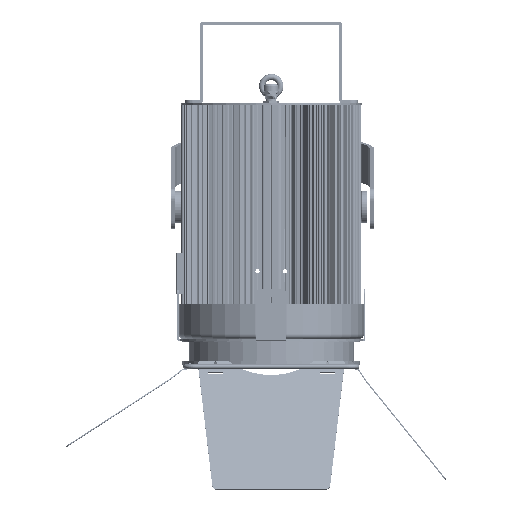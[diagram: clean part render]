
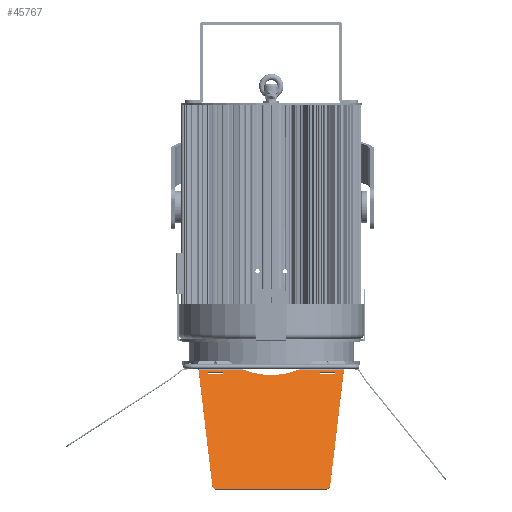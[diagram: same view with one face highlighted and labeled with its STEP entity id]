
A CAD part, top view. The second image highlights one B-rep face of the part: STEP entity #45767.
In plain terms, the highlighted planar face has unit normal (0, 0.515, 0.857) as drawn and (0, -1, 0) by its records, which use the part's own axes.
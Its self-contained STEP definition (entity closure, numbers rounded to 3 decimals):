
#33 = VERTEX_POINT ( 'NONE', #54854 ) ;
#303 = CARTESIAN_POINT ( 'NONE',  ( -52.981, -0.5, -74. ) ) ;
#1908 = AXIS2_PLACEMENT_3D ( 'NONE', #51754, #76099, #190012 ) ;
#2795 = DIRECTION ( 'NONE',  ( 0., 1., 0. ) ) ;
#16270 = CARTESIAN_POINT ( 'NONE',  ( 62.5, -0.5, 60.5 ) ) ;
#16301 = CARTESIAN_POINT ( 'NONE',  ( 62.5, -0.5, 60.5 ) ) ;
#19085 = VERTEX_POINT ( 'NONE', #16301 ) ;
#25766 = VERTEX_POINT ( 'NONE', #166596 ) ;
#28926 = CIRCLE ( 'NONE', #53250, 5. ) ;
#31161 = ORIENTED_EDGE ( 'NONE', *, *, #279138, .F. ) ;
#31207 = EDGE_CURVE ( 'NONE', #169072, #33, #73442, .T. ) ;
#32087 = CARTESIAN_POINT ( 'NONE',  ( 0., -0.5, 0. ) ) ;
#32564 = CARTESIAN_POINT ( 'NONE',  ( 47.5, -0.5, 60.5 ) ) ;
#33257 = ORIENTED_EDGE ( 'NONE', *, *, #210020, .T. ) ;
#35450 = CARTESIAN_POINT ( 'NONE',  ( 71.41, -0.5, 63.25 ) ) ;
#36353 = DIRECTION ( 'NONE',  ( 0.995, 0., -0.101 ) ) ;
#43621 = DIRECTION ( 'NONE',  ( -1., 0., 0. ) ) ;
#44674 = VERTEX_POINT ( 'NONE', #158492 ) ;
#45767 = ADVANCED_FACE ( 'NONE', ( #123309, #216007, #280009 ), #237376, .F. ) ;
#47404 = VECTOR ( 'NONE', #51983, 1000. ) ;
#48585 = VECTOR ( 'NONE', #266389, 1000. ) ;
#49306 = EDGE_CURVE ( 'NONE', #110558, #182606, #180787, .T. ) ;
#50694 = EDGE_CURVE ( 'NONE', #272325, #182606, #146826, .T. ) ;
#51754 = CARTESIAN_POINT ( 'NONE',  ( 0., -0.5, 120. ) ) ;
#51983 = DIRECTION ( 'NONE',  ( -1., 0., 0. ) ) ;
#53250 = AXIS2_PLACEMENT_3D ( 'NONE', #235322, #2795, #255144 ) ;
#54854 = CARTESIAN_POINT ( 'NONE',  ( 47.5, -0.5, 58.5 ) ) ;
#56396 = VERTEX_POINT ( 'NONE', #86873 ) ;
#62195 = DIRECTION ( 'NONE',  ( 0., 1., 0. ) ) ;
#63286 = ORIENTED_EDGE ( 'NONE', *, *, #277795, .T. ) ;
#65038 = CIRCLE ( 'NONE', #1908, 62.628 ) ;
#65907 = EDGE_CURVE ( 'NONE', #272325, #44674, #65038, .T. ) ;
#68885 = EDGE_CURVE ( 'NONE', #300080, #84984, #283008, .T. ) ;
#71047 = ORIENTED_EDGE ( 'NONE', *, *, #187424, .T. ) ;
#71147 = EDGE_CURVE ( 'NONE', #82294, #173832, #107222, .T. ) ;
#71237 = VECTOR ( 'NONE', #237846, 1000. ) ;
#71693 = DIRECTION ( 'NONE',  ( 1., 0., 0. ) ) ;
#73442 = LINE ( 'NONE', #237173, #187163 ) ;
#73680 = CARTESIAN_POINT ( 'NONE',  ( -62.5, -0.5, 60.5 ) ) ;
#73939 = ORIENTED_EDGE ( 'NONE', *, *, #49306, .F. ) ;
#75431 = DIRECTION ( 'NONE',  ( -1., 0., 0. ) ) ;
#75899 = AXIS2_PLACEMENT_3D ( 'NONE', #32087, #217512, #219046 ) ;
#76099 = DIRECTION ( 'NONE',  ( 0., -1., 0. ) ) ;
#77295 = ORIENTED_EDGE ( 'NONE', *, *, #50694, .T. ) ;
#79654 = DIRECTION ( 'NONE',  ( 1., 0., 0. ) ) ;
#82294 = VERTEX_POINT ( 'NONE', #246342 ) ;
#84984 = VERTEX_POINT ( 'NONE', #261412 ) ;
#86873 = CARTESIAN_POINT ( 'NONE',  ( -47.5, -0.5, 60.5 ) ) ;
#88506 = LINE ( 'NONE', #269522, #148407 ) ;
#88748 = ORIENTED_EDGE ( 'NONE', *, *, #31207, .T. ) ;
#91438 = LINE ( 'NONE', #303, #289699 ) ;
#93668 = CARTESIAN_POINT ( 'NONE',  ( 71.41, -0.5, 63.25 ) ) ;
#96358 = LINE ( 'NONE', #73680, #260597 ) ;
#97624 = ORIENTED_EDGE ( 'NONE', *, *, #195830, .F. ) ;
#106491 = LINE ( 'NONE', #249420, #244449 ) ;
#107222 = CIRCLE ( 'NONE', #204229, 5. ) ;
#110558 = VERTEX_POINT ( 'NONE', #204843 ) ;
#114219 = VERTEX_POINT ( 'NONE', #35450 ) ;
#115295 = CARTESIAN_POINT ( 'NONE',  ( -57.956, -0.5, -69.504 ) ) ;
#115308 = EDGE_CURVE ( 'NONE', #25766, #56396, #96358, .T. ) ;
#120579 = EDGE_LOOP ( 'NONE', ( #133970, #33257, #280755, #88748 ) ) ;
#122196 = VECTOR ( 'NONE', #75431, 1000. ) ;
#123309 = FACE_BOUND ( 'NONE', #120579, .T. ) ;
#126497 = LINE ( 'NONE', #194911, #48585 ) ;
#131139 = VECTOR ( 'NONE', #156206, 1000. ) ;
#132327 = CARTESIAN_POINT ( 'NONE',  ( -26.489, -0.5, 63.25 ) ) ;
#132442 = VECTOR ( 'NONE', #43621, 1000. ) ;
#133970 = ORIENTED_EDGE ( 'NONE', *, *, #143655, .T. ) ;
#143655 = EDGE_CURVE ( 'NONE', #33, #149012, #88506, .T. ) ;
#146826 = LINE ( 'NONE', #187880, #122196 ) ;
#148407 = VECTOR ( 'NONE', #293728, 1000. ) ;
#149012 = VERTEX_POINT ( 'NONE', #261792 ) ;
#149568 = EDGE_LOOP ( 'NONE', ( #244227, #71047, #181417, #63286 ) ) ;
#156206 = DIRECTION ( 'NONE',  ( 0., 0., -1. ) ) ;
#158492 = CARTESIAN_POINT ( 'NONE',  ( 26.489, -0.5, 63.25 ) ) ;
#159219 = LINE ( 'NONE', #16270, #131139 ) ;
#164653 = DIRECTION ( 'NONE',  ( 0., 0., -1. ) ) ;
#165831 = DIRECTION ( 'NONE',  ( -1., 0., 0. ) ) ;
#166596 = CARTESIAN_POINT ( 'NONE',  ( -62.5, -0.5, 60.5 ) ) ;
#169072 = VERTEX_POINT ( 'NONE', #282695 ) ;
#173832 = VERTEX_POINT ( 'NONE', #249217 ) ;
#177732 = CARTESIAN_POINT ( 'NONE',  ( 52.981, -0.5, -69. ) ) ;
#180787 = LINE ( 'NONE', #115295, #253119 ) ;
#180832 = ORIENTED_EDGE ( 'NONE', *, *, #71147, .F. ) ;
#180959 = DIRECTION ( 'NONE',  ( 0., 0., 1. ) ) ;
#181417 = ORIENTED_EDGE ( 'NONE', *, *, #115308, .T. ) ;
#182606 = VERTEX_POINT ( 'NONE', #204404 ) ;
#187163 = VECTOR ( 'NONE', #165831, 1000. ) ;
#187424 = EDGE_CURVE ( 'NONE', #84984, #25766, #106491, .T. ) ;
#187880 = CARTESIAN_POINT ( 'NONE',  ( -26.489, -0.5, 63.25 ) ) ;
#190012 = DIRECTION ( 'NONE',  ( -0.423, 0., -0.906 ) ) ;
#193877 = CARTESIAN_POINT ( 'NONE',  ( -47.5, -0.5, 58.5 ) ) ;
#194911 = CARTESIAN_POINT ( 'NONE',  ( 71.41, -0.5, 63.25 ) ) ;
#195615 = CARTESIAN_POINT ( 'NONE',  ( -52.981, -0.5, -74. ) ) ;
#195830 = EDGE_CURVE ( 'NONE', #114219, #82294, #126497, .T. ) ;
#204229 = AXIS2_PLACEMENT_3D ( 'NONE', #177732, #62195, #36353 ) ;
#204404 = CARTESIAN_POINT ( 'NONE',  ( -71.41, -0.5, 63.25 ) ) ;
#204843 = CARTESIAN_POINT ( 'NONE',  ( -57.956, -0.5, -69.504 ) ) ;
#206058 = LINE ( 'NONE', #32564, #71237 ) ;
#210020 = EDGE_CURVE ( 'NONE', #149012, #19085, #206058, .T. ) ;
#210719 = LINE ( 'NONE', #93668, #132442 ) ;
#211668 = LINE ( 'NONE', #258780, #268435 ) ;
#216007 = FACE_BOUND ( 'NONE', #149568, .T. ) ;
#217512 = DIRECTION ( 'NONE',  ( 0., 1., 0. ) ) ;
#219046 = DIRECTION ( 'NONE',  ( 1., 0., 0. ) ) ;
#227906 = EDGE_CURVE ( 'NONE', #19085, #169072, #159219, .T. ) ;
#231647 = EDGE_LOOP ( 'NONE', ( #97624, #232899, #239671, #77295, #73939, #31161, #282152, #180832 ) ) ;
#232899 = ORIENTED_EDGE ( 'NONE', *, *, #239066, .T. ) ;
#235322 = CARTESIAN_POINT ( 'NONE',  ( -52.981, -0.5, -69. ) ) ;
#237173 = CARTESIAN_POINT ( 'NONE',  ( 62.5, -0.5, 58.5 ) ) ;
#237376 = PLANE ( 'NONE',  #75899 ) ;
#237846 = DIRECTION ( 'NONE',  ( 1., 0., 0. ) ) ;
#239066 = EDGE_CURVE ( 'NONE', #114219, #44674, #210719, .T. ) ;
#239671 = ORIENTED_EDGE ( 'NONE', *, *, #65907, .F. ) ;
#244227 = ORIENTED_EDGE ( 'NONE', *, *, #68885, .T. ) ;
#244449 = VECTOR ( 'NONE', #180959, 1000. ) ;
#246342 = CARTESIAN_POINT ( 'NONE',  ( 57.956, -0.5, -69.504 ) ) ;
#249217 = CARTESIAN_POINT ( 'NONE',  ( 52.981, -0.5, -74. ) ) ;
#249420 = CARTESIAN_POINT ( 'NONE',  ( -62.5, -0.5, 58.5 ) ) ;
#253119 = VECTOR ( 'NONE', #273564, 1000. ) ;
#255144 = DIRECTION ( 'NONE',  ( 0., 0., -1. ) ) ;
#256721 = VERTEX_POINT ( 'NONE', #195615 ) ;
#258780 = CARTESIAN_POINT ( 'NONE',  ( -47.5, -0.5, 60.5 ) ) ;
#260189 = CARTESIAN_POINT ( 'NONE',  ( -47.5, -0.5, 58.5 ) ) ;
#260597 = VECTOR ( 'NONE', #79654, 1000. ) ;
#261412 = CARTESIAN_POINT ( 'NONE',  ( -62.5, -0.5, 58.5 ) ) ;
#261792 = CARTESIAN_POINT ( 'NONE',  ( 47.5, -0.5, 60.5 ) ) ;
#266389 = DIRECTION ( 'NONE',  ( -0.101, 0., -0.995 ) ) ;
#268435 = VECTOR ( 'NONE', #164653, 1000. ) ;
#269522 = CARTESIAN_POINT ( 'NONE',  ( 47.5, -0.5, 58.5 ) ) ;
#272325 = VERTEX_POINT ( 'NONE', #132327 ) ;
#272859 = EDGE_CURVE ( 'NONE', #256721, #173832, #91438, .T. ) ;
#273564 = DIRECTION ( 'NONE',  ( -0.101, 0., 0.995 ) ) ;
#277795 = EDGE_CURVE ( 'NONE', #56396, #300080, #211668, .T. ) ;
#279138 = EDGE_CURVE ( 'NONE', #256721, #110558, #28926, .T. ) ;
#280009 = FACE_OUTER_BOUND ( 'NONE', #231647, .T. ) ;
#280755 = ORIENTED_EDGE ( 'NONE', *, *, #227906, .T. ) ;
#282152 = ORIENTED_EDGE ( 'NONE', *, *, #272859, .T. ) ;
#282695 = CARTESIAN_POINT ( 'NONE',  ( 62.5, -0.5, 58.5 ) ) ;
#283008 = LINE ( 'NONE', #260189, #47404 ) ;
#289699 = VECTOR ( 'NONE', #71693, 1000. ) ;
#293728 = DIRECTION ( 'NONE',  ( 0., 0., 1. ) ) ;
#300080 = VERTEX_POINT ( 'NONE', #193877 ) ;
